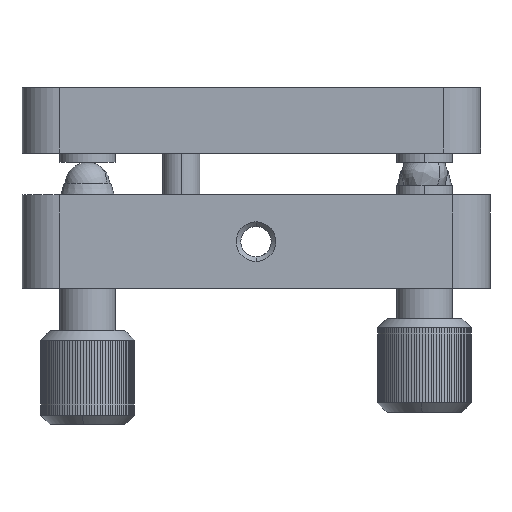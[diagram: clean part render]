
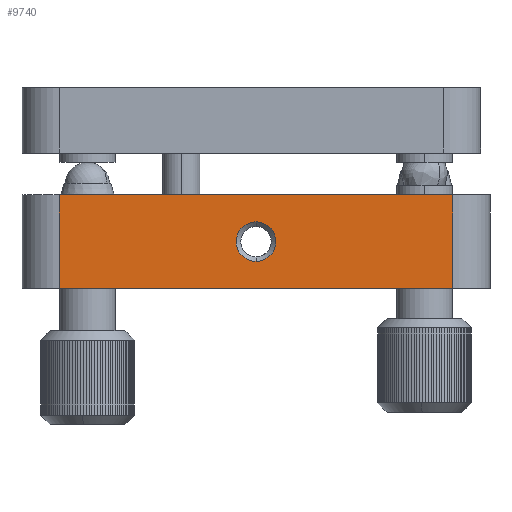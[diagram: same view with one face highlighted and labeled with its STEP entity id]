
A CAD part, left-side view. The second image highlights one B-rep face of the part: STEP entity #9740.
In plain terms, the highlighted planar face has unit normal (-1, 0, 0).
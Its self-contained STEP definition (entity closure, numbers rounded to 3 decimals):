
#8154 = EDGE_CURVE ( 'NONE', #8155, #8190, #28641, .T. ) ;
#8155 = VERTEX_POINT ( 'NONE', #28636 ) ;
#8190 = VERTEX_POINT ( 'NONE', #28708 ) ;
#9465 = VERTEX_POINT ( 'NONE', #33930 ) ;
#9483 = EDGE_CURVE ( 'NONE', #9465, #9484, #33962, .T. ) ;
#9484 = VERTEX_POINT ( 'NONE', #33958 ) ;
#9690 = EDGE_LOOP ( 'NONE', ( #9691, #9694, #9752, #9753 ) ) ;
#9691 = ORIENTED_EDGE ( 'NONE', *, *, #9692, .F. ) ;
#9692 = EDGE_CURVE ( 'NONE', #9484, #9693, #34303, .T. ) ;
#9693 = VERTEX_POINT ( 'NONE', #34368 ) ;
#9694 = ORIENTED_EDGE ( 'NONE', *, *, #9483, .F. ) ;
#9704 = VERTEX_POINT ( 'NONE', #34350 ) ;
#9706 = EDGE_CURVE ( 'NONE', #9465, #9704, #34349, .T. ) ;
#9708 = EDGE_LOOP ( 'NONE', ( #9741, #9742 ) ) ;
#9740 = ADVANCED_FACE ( 'NONE', ( #34473, #34472 ), #34471, .T. ) ;
#9741 = ORIENTED_EDGE ( 'NONE', *, *, #8154, .T. ) ;
#9742 = ORIENTED_EDGE ( 'NONE', *, *, #9743, .T. ) ;
#9743 = EDGE_CURVE ( 'NONE', #8190, #8155, #34466, .T. ) ;
#9752 = ORIENTED_EDGE ( 'NONE', *, *, #9706, .T. ) ;
#9753 = ORIENTED_EDGE ( 'NONE', *, *, #9754, .T. ) ;
#9754 = EDGE_CURVE ( 'NONE', #9704, #9693, #34450, .T. ) ;
#28636 = CARTESIAN_POINT ( 'NONE',  ( 0., 25., 7.121 ) ) ;
#28637 = DIRECTION ( 'NONE',  ( 0., 0., 1. ) ) ;
#28638 = DIRECTION ( 'NONE',  ( 1., 0., 0. ) ) ;
#28639 = CARTESIAN_POINT ( 'NONE',  ( 0., 25., 5. ) ) ;
#28640 = AXIS2_PLACEMENT_3D ( 'NONE', #28639, #28638, #28637 ) ;
#28641 = CIRCLE ( 'NONE', #28640, 2.121 ) ;
#28708 = CARTESIAN_POINT ( 'NONE',  ( 0., 25., 2.879 ) ) ;
#33776 = CARTESIAN_POINT ( 'NONE',  ( 0., 4., 0. ) ) ;
#33930 = CARTESIAN_POINT ( 'NONE',  ( 0., 46., 10. ) ) ;
#33958 = CARTESIAN_POINT ( 'NONE',  ( 0., 4., 10. ) ) ;
#33959 = DIRECTION ( 'NONE',  ( 0., -1., 0. ) ) ;
#33960 = VECTOR ( 'NONE', #33959, 1000. ) ;
#33961 = CARTESIAN_POINT ( 'NONE',  ( 0., 18.52, 10. ) ) ;
#33962 = LINE ( 'NONE', #33961, #33960 ) ;
#34303 = LINE ( 'NONE', #33776, #34370 ) ;
#34346 = DIRECTION ( 'NONE',  ( 0., 0., -1. ) ) ;
#34347 = VECTOR ( 'NONE', #34346, 1000. ) ;
#34348 = CARTESIAN_POINT ( 'NONE',  ( 0., 46., 0. ) ) ;
#34349 = LINE ( 'NONE', #34348, #34347 ) ;
#34350 = CARTESIAN_POINT ( 'NONE',  ( 0., 46., 0. ) ) ;
#34368 = CARTESIAN_POINT ( 'NONE',  ( 0., 4., 0. ) ) ;
#34369 = DIRECTION ( 'NONE',  ( 0., 0., -1. ) ) ;
#34370 = VECTOR ( 'NONE', #34369, 1000. ) ;
#34447 = DIRECTION ( 'NONE',  ( 0., -1., 0. ) ) ;
#34448 = VECTOR ( 'NONE', #34447, 1000. ) ;
#34449 = CARTESIAN_POINT ( 'NONE',  ( 0., 0., 0. ) ) ;
#34450 = LINE ( 'NONE', #34449, #34448 ) ;
#34462 = DIRECTION ( 'NONE',  ( 0., 0., 1. ) ) ;
#34463 = DIRECTION ( 'NONE',  ( 1., 0., 0. ) ) ;
#34464 = CARTESIAN_POINT ( 'NONE',  ( 0., 25., 5. ) ) ;
#34465 = AXIS2_PLACEMENT_3D ( 'NONE', #34464, #34463, #34462 ) ;
#34466 = CIRCLE ( 'NONE', #34465, 2.121 ) ;
#34467 = DIRECTION ( 'NONE',  ( 0., -1., 0. ) ) ;
#34468 = DIRECTION ( 'NONE',  ( -1., 0., 0. ) ) ;
#34469 = CARTESIAN_POINT ( 'NONE',  ( 0., 0., 0. ) ) ;
#34470 = AXIS2_PLACEMENT_3D ( 'NONE', #34469, #34468, #34467 ) ;
#34471 = PLANE ( 'NONE',  #34470 ) ;
#34472 = FACE_OUTER_BOUND ( 'NONE', #9690, .T. ) ;
#34473 = FACE_BOUND ( 'NONE', #9708, .T. ) ;
